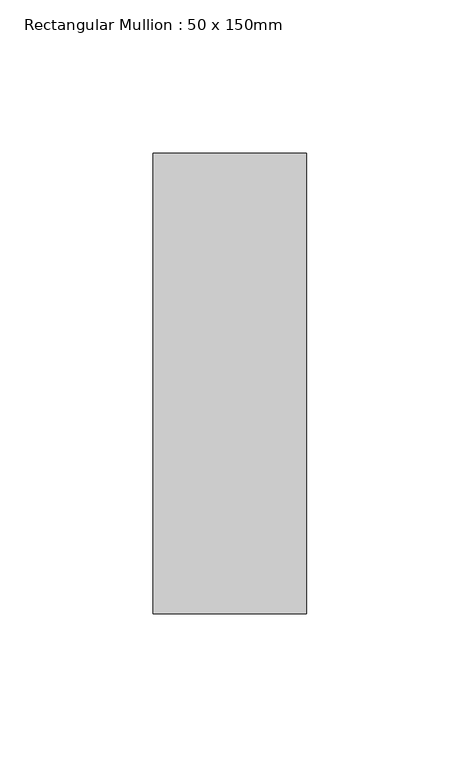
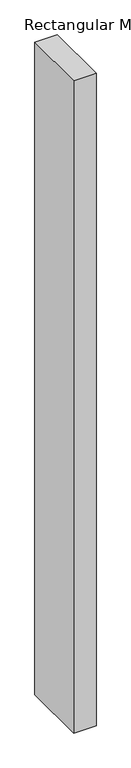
"""IFC4 building model written with IfcOpenShell, lengths in millimetres: member geometry, Rectangular Mullion : 50 x 150mm."""

import ifcopenshell
import ifcopenshell.guid

model = None  # the IFC model being written
_history = None  # IfcOwnerHistory: only IFC2X3 demands one
_inside = {}  # id of a spatial element -> (the spatial element, [elements in it])
_under = {}  # id of a project, library or spatial element -> (it, [spatial elements below it])
_declared = {}  # id of a project -> (the project, [libraries it declares])
_typed = {}  # id of a type object -> (the type object, [elements of that type])
_made_of = {}  # id of a material, layer set ... -> (it, [elements and type objects made of it])


def new_model(schema):
    """Start an empty IFC model of exactly this schema.

    Asked for "IFC4X3", IfcOpenShell would pick the latest addendum, in which some entities
    have other attributes; the version numbers below select the first issue.
    IFC2X3 requires an IfcOwnerHistory on every rooted entity: one is made here for all.
    """
    global model, _history
    if schema == "IFC4X3":
        model = ifcopenshell.file(schema_version=(4, 3, 0, 0))
    else:
        model = ifcopenshell.file(schema=schema)
    _inside.clear()
    _under.clear()
    _declared.clear()
    _typed.clear()
    _made_of.clear()
    _history = None
    if model.schema == "IFC2X3":
        org = make("IfcOrganization", Name="unknown")
        user = make(
            "IfcPersonAndOrganization",
            ThePerson=make("IfcPerson", FamilyName="unknown"),
            TheOrganization=org,
        )
        app = make(
            "IfcApplication",
            ApplicationDeveloper=org,
            Version="unknown",
            ApplicationFullName="unknown",
            ApplicationIdentifier="unknown",
        )
        _history = make(
            "IfcOwnerHistory",
            OwningUser=user,
            OwningApplication=app,
            ChangeAction="ADDED",
            CreationDate=0,
        )
    return model


def make(cls, **values):
    """One entity of the class cls with the attributes given. An attribute that is None is left unset."""
    return model.create_entity(
        cls, **{name: value for name, value in values.items() if value is not None}
    )


def rooted(cls, **values):
    """An entity with a GlobalId (a new one), such as an element, a storey or a relation."""
    return make(cls, GlobalId=ifcopenshell.guid.new(), OwnerHistory=_history, **values)


def si_unit(unit_type, name, prefix=None):
    """IfcSIUnit, for example si_unit("LENGTHUNIT", "METRE", prefix="MILLI")."""
    return make("IfcSIUnit", UnitType=unit_type, Prefix=prefix, Name=name)


def assignment(units):
    """IfcUnitAssignment: the units of a project."""
    return None if units is None else make("IfcUnitAssignment", Units=units)


def point(xyz):
    """IfcCartesianPoint."""
    return None if xyz is None else make("IfcCartesianPoint", Coordinates=xyz)


def direction(xyz):
    """IfcDirection."""
    return None if xyz is None else make("IfcDirection", DirectionRatios=xyz)


def frame(location, z_axis=None, x_axis=None):
    """IfcAxis2Placement3D, a coordinate frame: its origin and axes. An axis left out is left unset."""
    return make(
        "IfcAxis2Placement3D",
        Location=point(location),
        Axis=direction(z_axis),
        RefDirection=direction(x_axis),
    )


def origin():
    """The frame at (0, 0, 0) with its axes left unset."""
    return frame((0.0, 0.0, 0.0))


def place(relative_to, where):
    """IfcLocalPlacement: puts the frame where relative to a parent placement (None: the world)."""
    return make(
        "IfcLocalPlacement", PlacementRelTo=relative_to, RelativePlacement=where
    )


def context(
    kind, dimensions, precision=None, world=None, true_north=None, identifier=None
):
    """IfcGeometricRepresentationContext, for example the 3D "Model" context."""
    return make(
        "IfcGeometricRepresentationContext",
        ContextIdentifier=identifier,
        ContextType=kind,
        CoordinateSpaceDimension=dimensions,
        Precision=precision,
        WorldCoordinateSystem=world,
        TrueNorth=true_north,
    )


def project(units=None, contexts=None):
    """IfcProject with its units and contexts."""
    return rooted(
        "IfcProject",
        Name="project",
        RepresentationContexts=contexts,
        UnitsInContext=assignment(units),
    )


def spatial(cls, under=None, at=None, **own):
    """A site, building, storey or space (cls), placed at a placement, below another one or the project."""
    s = rooted(cls, ObjectPlacement=at, **own)
    if under is not None:
        _under.setdefault(under.id(), (under, []))[1].append(s)
    return s


def polyline(points):
    """IfcPolyline through the points."""
    return make("IfcPolyline", Points=[point(p) for p in points])


def outline(outer, holes=None, kind="AREA"):
    """IfcArbitraryClosedProfileDef: a profile drawn as a closed curve; with holes, ...WithVoids."""
    if holes is None:
        return make("IfcArbitraryClosedProfileDef", ProfileType=kind, OuterCurve=outer)
    return make(
        "IfcArbitraryProfileDefWithVoids",
        ProfileType=kind,
        OuterCurve=outer,
        InnerCurves=holes,
    )


def extrude(swept, where, along, depth):
    """IfcExtrudedAreaSolid: the profile swept, set in the frame where, extruded along a direction by depth."""
    return make(
        "IfcExtrudedAreaSolid",
        SweptArea=swept,
        Position=where,
        ExtrudedDirection=direction(along),
        Depth=depth,
    )


def shape(context_of_items, identifier, shape_type, items):
    """IfcShapeRepresentation: the items that make up one representation, for example the "Body"."""
    return make(
        "IfcShapeRepresentation",
        ContextOfItems=context_of_items,
        RepresentationIdentifier=identifier,
        RepresentationType=shape_type,
        Items=items,
    )


def source(mapping_origin, context_of_items, identifier, shape_type, items):
    """IfcRepresentationMap: a shape defined once, which mapped items show again and again."""
    return make(
        "IfcRepresentationMap",
        MappingOrigin=mapping_origin,
        MappedRepresentation=shape(context_of_items, identifier, shape_type, items),
    )


def transform(
    local_origin,
    x_axis=None,
    y_axis=None,
    z_axis=None,
    scale=None,
    scale2=None,
    scale3=None,
    uniform=True,
):
    """IfcCartesianTransformationOperator3D, or its non-uniform kind. x_axis, y_axis, z_axis: its Axis1, 2, 3."""
    if uniform:
        return make(
            "IfcCartesianTransformationOperator3D",
            Axis1=direction(x_axis),
            Axis2=direction(y_axis),
            LocalOrigin=point(local_origin),
            Scale=scale,
            Axis3=direction(z_axis),
        )
    return make(
        "IfcCartesianTransformationOperator3DnonUniform",
        Axis1=direction(x_axis),
        Axis2=direction(y_axis),
        LocalOrigin=point(local_origin),
        Scale=scale,
        Axis3=direction(z_axis),
        Scale2=scale2,
        Scale3=scale3,
    )


def mapped(mapping_source, mapping_target):
    """IfcMappedItem: shows the shape of a source again, moved by a transform."""
    return make(
        "IfcMappedItem", MappingSource=mapping_source, MappingTarget=mapping_target
    )


def made_of(thing, what):
    """Note that an element or type object is made of a material, layer set ...; save() writes the relation."""
    if what is not None:
        _made_of.setdefault(what.id(), (what, []))[1].append(thing)
    return thing


def element(
    cls,
    number,
    at=None,
    inside=None,
    cuts=None,
    type_object=None,
    material=None,
    context=None,
    identifier="Body",
    shape_type=None,
    held_by="IfcProductDefinitionShape",
    body=None,
    shapes=None,
    **own,
):
    """One element of the class cls, such as IfcWall. Its Tag is "e" and its number.

    at: its placement. inside: the storey or other place that contains it. cuts: it is an
    opening in that element (IfcRelVoidsElement). A single representation is given by context,
    identifier, shape_type and body (its items); several are given by shapes. held_by: the class
    of the entity that holds the representations. save() writes the other relations.
    """
    e = rooted(cls, Tag="e%d" % number, ObjectPlacement=at, **own)
    if body is not None:
        shapes = [shape(context, identifier, shape_type, body)]
    if shapes is not None:
        e.Representation = make(held_by, Representations=shapes)
    if inside is not None:
        _inside.setdefault(inside.id(), (inside, []))[1].append(e)
    if cuts is not None:
        rooted(
            "IfcRelVoidsElement", RelatingBuildingElement=cuts, RelatedOpeningElement=e
        )
    if type_object is not None:
        _typed.setdefault(type_object.id(), (type_object, []))[1].append(e)
    return made_of(e, material)


def aggregate(whole, parts):
    """IfcRelAggregates: a whole, such as a stair, and the parts it consists of."""
    return rooted("IfcRelAggregates", RelatingObject=whole, RelatedObjects=parts)


def save(model, path):
    """Write the relations noted so far, then the file.

    IfcRelAggregates (storeys below a building ...), IfcRelContainedInSpatialStructure (elements
    in a storey), IfcRelDefinesByType, IfcRelAssociatesMaterial and IfcRelDeclares: one each for
    every whole, place, type object, material and project.
    """
    for whole, parts in _under.values():
        aggregate(whole, parts)
    for where, things in _inside.values():
        rooted(
            "IfcRelContainedInSpatialStructure",
            RelatedElements=things,
            RelatingStructure=where,
        )
    for kind, things in _typed.values():
        rooted("IfcRelDefinesByType", RelatedObjects=things, RelatingType=kind)
    for what, things in _made_of.values():
        rooted("IfcRelAssociatesMaterial", RelatedObjects=things, RelatingMaterial=what)
    for by, libraries in _declared.values():
        rooted("IfcRelDeclares", RelatingContext=by, RelatedDefinitions=libraries)
    model.write(path)


def rectangular_mullion_50_x_150mm_a0fd40aa(model_context):
    return source(origin(), model_context, "Body", "SweptSolid", [
        extrude(outline(polyline([(0.0, 75.0), (0.0, -75.0), (-50.0, -75.0), (-50.0, 75.0), (0.0, 75.0)])), frame((0.0, 0.0, -1540.0), z_axis=(0.0, 0.0, 1.0), x_axis=(1.0, 0.0, 0.0)), (0.0, 0.0, 1.0), 1540.0),
    ])


if __name__ == "__main__":
    model = new_model("IFC4")
    model_context = context("Model", 3, world=origin())
    ifc_project = project(units=[si_unit("LENGTHUNIT", "METRE", prefix="MILLI")], contexts=[model_context])
    site = spatial("IfcSite", under=ifc_project)
    building = spatial("IfcBuilding", under=site)
    placement = place(None, origin())
    rectangular_mullion_50_x_150mm_shape = rectangular_mullion_50_x_150mm_a0fd40aa(model_context)
    element("IfcMember", 1, ObjectType="Rectangular Mullion : 50 x 150mm", at=placement, inside=building, context=model_context, shape_type="MappedRepresentation", body=[
        mapped(rectangular_mullion_50_x_150mm_shape, transform((0.0, 0.0, 0.0), x_axis=(1.0, 0.0, 0.0), y_axis=(0.0, 1.0, 0.0), z_axis=(0.0, 0.0, 1.0))),
    ])
    save(model, "model.ifc")
